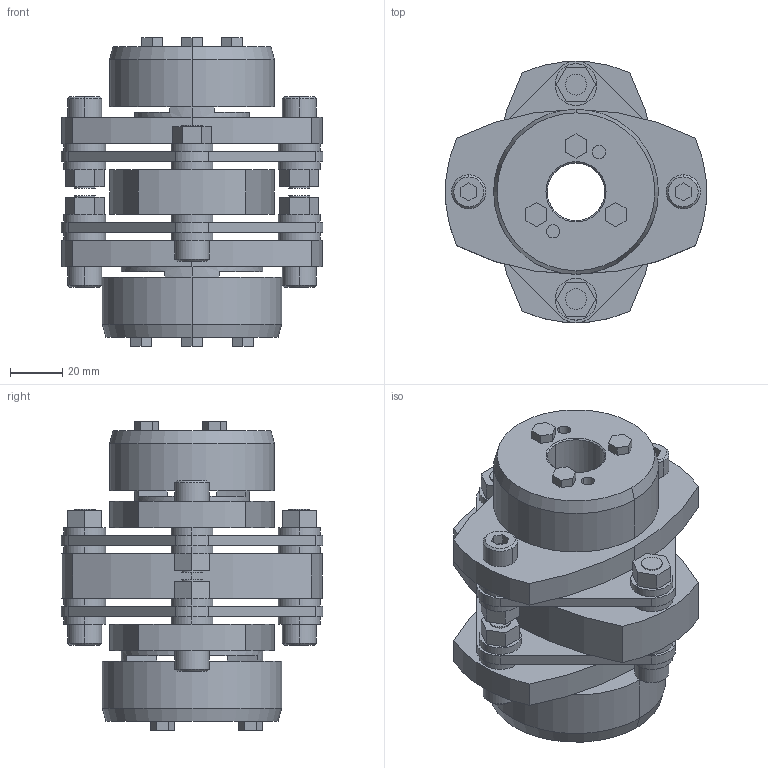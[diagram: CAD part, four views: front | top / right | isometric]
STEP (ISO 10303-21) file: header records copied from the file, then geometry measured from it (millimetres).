
FILE_DESCRIPTION((''),'2;1');
FILE_NAME('LCD-100T7-22×30.stp','2011-09-09T08:36:32',(''),(''),'AutoCAD STEP 2000i','AutoCAD 2000i',', , ');
FILE_SCHEMA(('CONFIG_CONTROL_DESIGN'));
Length unit declared in the file: millimetre
Products named in the file (7): LCD-100T7-22×30; 忣兜1; LC100T7-T030; LC100T7-T025; LC100T7-T022-1; LC100T7-T022; LCD100-ITA
Assembly tree (6 placements, depth 2):
  LCD-100T7-22×30
    忣兜1
    LC100T7-T030
    LC100T7-T025
    LC100T7-T022-1
    LC100T7-T022
    LCD100-ITA
Bounding box: 100 x 99.93 x 118 mm (x, y, z)
Volume: 357928.9 mm3; surface area: 90305.3 mm2
Topology: 1 solids, 1 shells, 320 faces, 780 edges, 512 vertices
Faces by surface type: plane 176, cylinder 120, cone 24
Entity records: 9663 total; most frequent: DIRECTION 1714, CARTESIAN_POINT 1619, ORIENTED_EDGE 1560, EDGE_CURVE 780, AXIS2_PLACEMENT_3D 607, VERTEX_POINT 512, VECTOR 500, LINE 500
